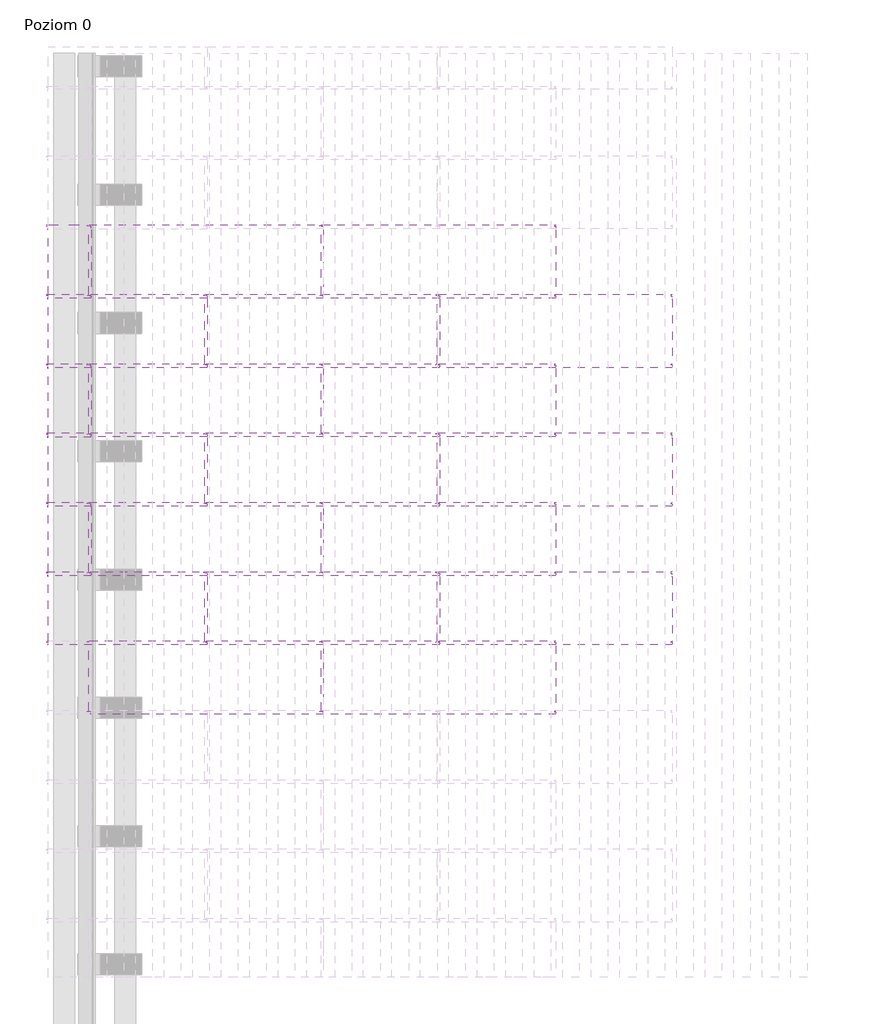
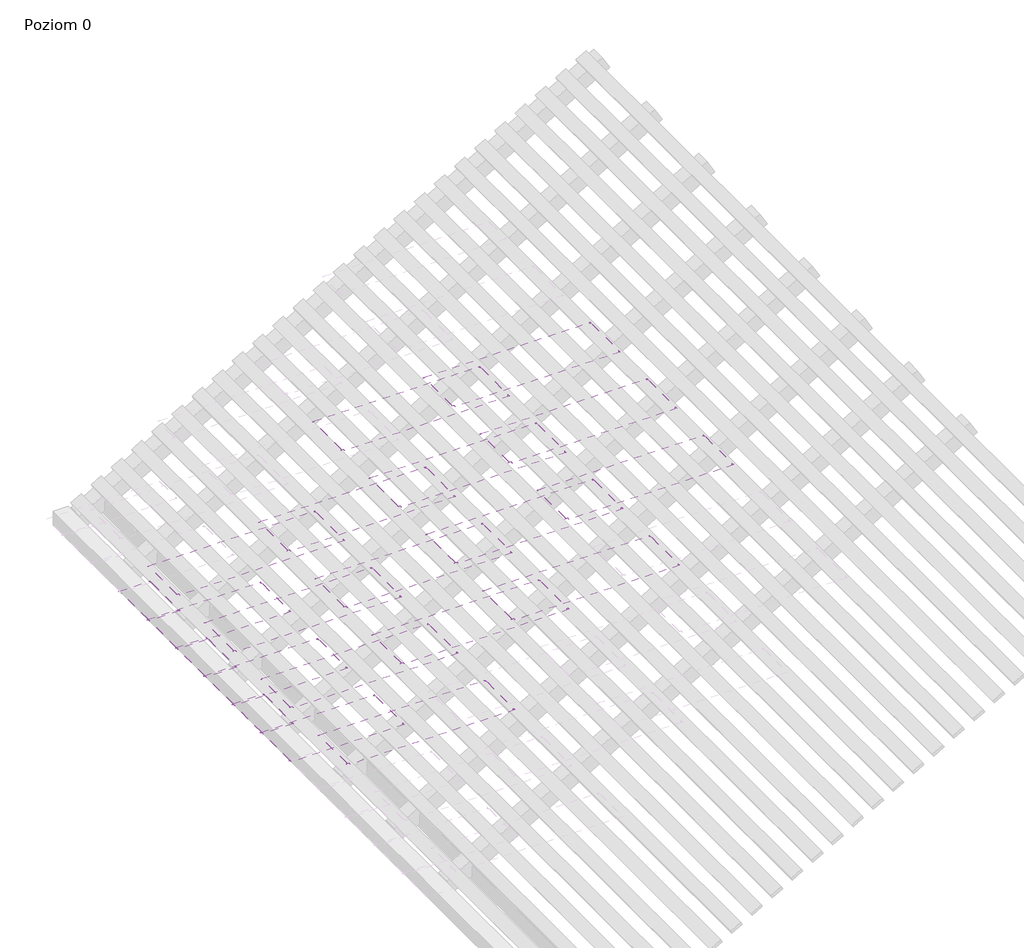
# One storey, part 3 of 4: 20 coverings.
"""IFC4 building model written with IfcOpenShell, lengths in millimetres."""

from ifc_helpers import new_model, si_unit, point, frame, frame_2d, origin, place, context, project, spatial, polyline, circle_curve, trimmed, segment, composite_curve, outline, extrude, transform, mapped, element, save
from components import covering_053faf2b

model = new_model("IFC4")

# Units and contexts
model_context = context("Model", 3, world=origin())
ifc_project = project(units=[si_unit("LENGTHUNIT", "METRE", prefix="MILLI")], contexts=[model_context])

# Site, building, storey
site = spatial("IfcSite", under=ifc_project)
building = spatial("IfcBuilding", under=site)
storey = spatial("IfcBuildingStorey", under=building, Name="Poziom 0", Elevation=0.0)

# Coverings
placement = place(None, origin())
element("IfcCovering", 1, ObjectType="Zintegrowany dach fotowoltaiczny FIT L.P (pojedynczy arkusz) : Zintegrowany dach fotowoltaiczny FIT L.P (pojedynczy arkusz)", at=placement, inside=storey, context=model_context, shape_type="SweptSolid", body=[
    extrude(outline(composite_curve([segment(polyline([(288.0882052, -764.3254516), (270.8006701, -764.3254516)]), True, "CONTINUOUS"), segment(trimmed(circle_curve(frame_2d((270.8006701, -767.1254516)), 2.8), [point((270.8006701, -764.3254516))], [point((268.0006701, -767.1254516))], True, "CARTESIAN"), True, "CONTINUOUS"), segment(polyline([(268.0006701, -767.1254516), (268.0006701, -784.9194843)]), True, "CONTINUOUS"), segment(trimmed(circle_curve(frame_2d((266.3873432, -784.7092324)), 1.6269694), [point((268.0006701, -784.9194843))], [point((264.9716419, -785.5109926))], False, "CARTESIAN"), True, "CONTINUOUS"), segment(polyline([(264.9716419, -785.5109926), (259.5147607, -772.9478756)]), True, "CONTINUOUS"), segment(trimmed(circle_curve(frame_2d((261.4782052, -771.7500084)), 2.3), [point((259.5147607, -772.9478756))], [point((260.424286, -769.705686))], False, "CARTESIAN"), True, "CONTINUOUS"), segment(polyline([(260.424286, -769.705686), (262.0969852, -769.0301624)]), True, "CONTINUOUS"), segment(trimmed(circle_curve(frame_2d((261.7598094, -768.195264)), 0.9004126), [point((262.0969852, -769.0301624))], [point((262.5492444, -767.7622108))], True, "CARTESIAN"), True, "CONTINUOUS"), segment(polyline([(262.5492444, -767.7622108), (260.6639723, -764.3254516), (-231.6728378, -764.3254516), (-233.6728378, -766.3254516), (-256.2638552, -766.3254516)]), True, "CONTINUOUS"), segment(trimmed(circle_curve(frame_2d((-256.2638552, -767.1498016)), 0.82435), [point((-256.2638552, -766.3254516))], [point((-257.0882052, -767.1498016))], True, "CARTESIAN"), True, "CONTINUOUS"), segment(polyline([(-257.0882052, -767.1498016), (-257.0882052, -785.8254516)]), True, "CONTINUOUS"), segment(trimmed(circle_curve(frame_2d((-259.0882052, -785.8254516)), 2.0), [point((-257.0882052, -785.8254516))], [point((-259.0882052, -787.8254516))], False, "CARTESIAN"), True, "CONTINUOUS"), segment(polyline([(-259.0882052, -787.8254516), (-267.9117948, -787.8254516)]), True, "CONTINUOUS"), segment(trimmed(circle_curve(frame_2d((-267.9117948, -785.8254516)), 2.0), [point((-267.9117948, -787.8254516))], [point((-269.9117948, -785.8254516))], False, "CARTESIAN"), True, "CONTINUOUS"), segment(polyline([(-269.9117948, -785.8254516), (-269.9117948, -771.7500084)]), True, "CONTINUOUS"), segment(trimmed(circle_curve(frame_2d((-266.1117948, -771.7500084)), 3.8), [point((-269.9117948, -771.7500084))], [point((-267.8014079, -768.3463036))], False, "CARTESIAN"), True, "CONTINUOUS"), segment(trimmed(circle_curve(frame_2d((-268.3170787, -767.3074911)), 1.1597619), [point((-267.8014079, -768.3463036))], [point((-267.171889, -767.1242207))], True, "CARTESIAN"), True, "CONTINUOUS"), segment(polyline([(-267.171889, -767.1242207), (-268.0083048, -765.5994754), (-267.1315567, -765.1185255), (-266.299575, -766.6351876)]), True, "CONTINUOUS"), segment(trimmed(circle_curve(frame_2d((-267.8170787, -767.3074911)), 1.6597619), [point((-266.299575, -766.6351876))], [point((-267.0790904, -768.7941595))], False, "CARTESIAN"), True, "CONTINUOUS"), segment(trimmed(circle_curve(frame_2d((-265.6117948, -771.7500084)), 3.3), [point((-267.0790904, -768.7941595))], [point((-268.9117948, -771.7500084))], True, "CARTESIAN"), True, "CONTINUOUS"), segment(polyline([(-268.9117948, -771.7500084), (-268.9117948, -785.3254516)]), True, "CONTINUOUS"), segment(trimmed(circle_curve(frame_2d((-267.4117948, -785.3254516)), 1.5), [point((-268.9117948, -785.3254516))], [point((-267.4117948, -786.8254516))], True, "CARTESIAN"), True, "CONTINUOUS"), segment(polyline([(-267.4117948, -786.8254516), (-259.5882052, -786.8254516)]), True, "CONTINUOUS"), segment(trimmed(circle_curve(frame_2d((-259.5882052, -785.3254516)), 1.5), [point((-259.5882052, -786.8254516))], [point((-258.0882052, -785.3254516))], True, "CARTESIAN"), True, "CONTINUOUS"), segment(polyline([(-258.0882052, -785.3254516), (-258.0882052, -767.0618312)]), True, "CONTINUOUS"), segment(trimmed(circle_curve(frame_2d((-256.2893299, -767.1254516)), 1.8), [point((-258.0882052, -767.0618312))], [point((-256.2893299, -765.3254516))], False, "CARTESIAN"), True, "CONTINUOUS"), segment(polyline([(-256.2893299, -765.3254516), (-234.0870514, -765.3254516), (-232.0870514, -763.3254516), (260.3034181, -763.3254516)]), True, "CONTINUOUS"), segment(trimmed(circle_curve(frame_2d((260.0800912, -765.3129437)), 2.0), [point((260.3034181, -763.3254516))], [point((261.7119395, -764.1566258))], False, "CARTESIAN"), True, "CONTINUOUS"), segment(polyline([(261.7119395, -764.1566258), (263.6966367, -767.774632)]), True, "CONTINUOUS"), segment(trimmed(circle_curve(frame_2d((262.4688276, -768.4481602)), 1.4004126), [point((263.6966367, -767.774632))], [point((262.9932374, -769.7466784))], False, "CARTESIAN"), True, "CONTINUOUS"), segment(polyline([(262.9932374, -769.7466784), (260.8475944, -770.6132015)]), True, "CONTINUOUS"), segment(trimmed(circle_curve(frame_2d((261.4782052, -771.7500084)), 1.3), [point((260.8475944, -770.6132015))], [point((260.4005072, -772.4770346))], True, "CARTESIAN"), True, "CONTINUOUS"), segment(polyline([(260.4005072, -772.4770346), (265.8628688, -785.0527688)]), True, "CONTINUOUS"), segment(trimmed(circle_curve(frame_2d((266.3873432, -784.7092324)), 0.6269694), [point((265.8628688, -785.0527688))], [point((267.0006701, -784.8393124))], True, "CARTESIAN"), True, "CONTINUOUS"), segment(polyline([(267.0006701, -784.8393124), (267.0006701, -767.1254516)]), True, "CONTINUOUS"), segment(trimmed(circle_curve(frame_2d((270.8006701, -767.1254516)), 3.8), [point((267.0006701, -767.1254516))], [point((270.8006701, -763.3254516))], False, "CARTESIAN"), True, "CONTINUOUS"), segment(polyline([(270.8006701, -763.3254516), (288.0882052, -763.3254516), (288.0882052, -764.3254516)]), True, "CONTINUOUS")], self_intersect=False)), frame((-4646.3009837, -2860.7095918, 351.3905312), z_axis=(0.8660254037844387, 0.0, 0.49999999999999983), x_axis=(0.0, -1.0, 0.0)), (0.0, 0.0, 1.0), 1396.4773133),
])
element("IfcCovering", 2, ObjectType="Zintegrowany dach fotowoltaiczny FIT L.P (pojedynczy arkusz) : Zintegrowany dach fotowoltaiczny FIT L.P (pojedynczy arkusz)", at=placement, inside=storey, context=model_context, shape_type="SweptSolid", body=[
    extrude(outline(composite_curve([segment(polyline([(288.0882052, -234.3179044), (270.8006701, -234.3179044)]), True, "CONTINUOUS"), segment(trimmed(circle_curve(frame_2d((270.8006701, -237.1179045)), 2.8), [point((270.8006701, -234.3179044))], [point((268.0006701, -237.1179045))], True, "CARTESIAN"), True, "CONTINUOUS"), segment(polyline([(268.0006701, -237.1179045), (268.0006701, -254.9119372)]), True, "CONTINUOUS"), segment(trimmed(circle_curve(frame_2d((266.3873432, -254.7016853)), 1.6269694), [point((268.0006701, -254.9119372))], [point((264.9716419, -255.5034454))], False, "CARTESIAN"), True, "CONTINUOUS"), segment(polyline([(264.9716419, -255.5034454), (259.5147607, -242.9403285)]), True, "CONTINUOUS"), segment(trimmed(circle_curve(frame_2d((261.4782052, -241.7424613)), 2.3), [point((259.5147607, -242.9403285))], [point((260.424286, -239.6981389))], False, "CARTESIAN"), True, "CONTINUOUS"), segment(polyline([(260.424286, -239.6981389), (262.0969852, -239.0226153)]), True, "CONTINUOUS"), segment(trimmed(circle_curve(frame_2d((261.7598094, -238.1877169)), 0.9004126), [point((262.0969852, -239.0226153))], [point((262.5492444, -237.7546636))], True, "CARTESIAN"), True, "CONTINUOUS"), segment(polyline([(262.5492444, -237.7546636), (260.6639723, -234.3179044), (-231.6728378, -234.3179044), (-233.6728378, -236.3179044), (-256.2638552, -236.3179044)]), True, "CONTINUOUS"), segment(trimmed(circle_curve(frame_2d((-256.2638552, -237.1422545)), 0.82435), [point((-256.2638552, -236.3179044))], [point((-257.0882052, -237.1422545))], True, "CARTESIAN"), True, "CONTINUOUS"), segment(polyline([(-257.0882052, -237.1422545), (-257.0882052, -255.8179044)]), True, "CONTINUOUS"), segment(trimmed(circle_curve(frame_2d((-259.0882052, -255.8179044)), 2.0), [point((-257.0882052, -255.8179044))], [point((-259.0882052, -257.8179044))], False, "CARTESIAN"), True, "CONTINUOUS"), segment(polyline([(-259.0882052, -257.8179044), (-267.9117948, -257.8179044)]), True, "CONTINUOUS"), segment(trimmed(circle_curve(frame_2d((-267.9117948, -255.8179044)), 2.0), [point((-267.9117948, -257.8179044))], [point((-269.9117948, -255.8179044))], False, "CARTESIAN"), True, "CONTINUOUS"), segment(polyline([(-269.9117948, -255.8179044), (-269.9117948, -241.7424613)]), True, "CONTINUOUS"), segment(trimmed(circle_curve(frame_2d((-266.1117948, -241.7424613)), 3.8), [point((-269.9117948, -241.7424613))], [point((-267.8014079, -238.3387564))], False, "CARTESIAN"), True, "CONTINUOUS"), segment(trimmed(circle_curve(frame_2d((-268.3170787, -237.2999439)), 1.1597619), [point((-267.8014079, -238.3387564))], [point((-267.171889, -237.1166736))], True, "CARTESIAN"), True, "CONTINUOUS"), segment(polyline([(-267.171889, -237.1166736), (-268.0083048, -235.5919282), (-267.1315567, -235.1109783), (-266.299575, -236.6276405)]), True, "CONTINUOUS"), segment(trimmed(circle_curve(frame_2d((-267.8170787, -237.2999439)), 1.6597619), [point((-266.299575, -236.6276405))], [point((-267.0790904, -238.7866123))], False, "CARTESIAN"), True, "CONTINUOUS"), segment(trimmed(circle_curve(frame_2d((-265.6117948, -241.7424613)), 3.3), [point((-267.0790904, -238.7866123))], [point((-268.9117948, -241.7424613))], True, "CARTESIAN"), True, "CONTINUOUS"), segment(polyline([(-268.9117948, -241.7424613), (-268.9117948, -255.3179044)]), True, "CONTINUOUS"), segment(trimmed(circle_curve(frame_2d((-267.4117948, -255.3179044)), 1.5), [point((-268.9117948, -255.3179044))], [point((-267.4117948, -256.8179044))], True, "CARTESIAN"), True, "CONTINUOUS"), segment(polyline([(-267.4117948, -256.8179044), (-259.5882052, -256.8179044)]), True, "CONTINUOUS"), segment(trimmed(circle_curve(frame_2d((-259.5882052, -255.3179044)), 1.5), [point((-259.5882052, -256.8179044))], [point((-258.0882052, -255.3179044))], True, "CARTESIAN"), True, "CONTINUOUS"), segment(polyline([(-258.0882052, -255.3179044), (-258.0882052, -237.0542841)]), True, "CONTINUOUS"), segment(trimmed(circle_curve(frame_2d((-256.2893299, -237.1179045)), 1.8), [point((-258.0882052, -237.0542841))], [point((-256.2893299, -235.3179044))], False, "CARTESIAN"), True, "CONTINUOUS"), segment(polyline([(-256.2893299, -235.3179044), (-234.0870514, -235.3179044), (-232.0870514, -233.3179044), (260.3034181, -233.3179044)]), True, "CONTINUOUS"), segment(trimmed(circle_curve(frame_2d((260.0800912, -235.3053966)), 2.0), [point((260.3034181, -233.3179044))], [point((261.7119395, -234.1490787))], False, "CARTESIAN"), True, "CONTINUOUS"), segment(polyline([(261.7119395, -234.1490787), (263.6966367, -237.7670849)]), True, "CONTINUOUS"), segment(trimmed(circle_curve(frame_2d((262.4688276, -238.440613)), 1.4004126), [point((263.6966367, -237.7670849))], [point((262.9932374, -239.7391313))], False, "CARTESIAN"), True, "CONTINUOUS"), segment(polyline([(262.9932374, -239.7391313), (260.8475944, -240.6056544)]), True, "CONTINUOUS"), segment(trimmed(circle_curve(frame_2d((261.4782052, -241.7424613)), 1.3), [point((260.8475944, -240.6056544))], [point((260.4005072, -242.4694875))], True, "CARTESIAN"), True, "CONTINUOUS"), segment(polyline([(260.4005072, -242.4694875), (265.8628688, -255.0452217)]), True, "CONTINUOUS"), segment(trimmed(circle_curve(frame_2d((266.3873432, -254.7016853)), 0.6269694), [point((265.8628688, -255.0452217))], [point((267.0006701, -254.8317652))], True, "CARTESIAN"), True, "CONTINUOUS"), segment(polyline([(267.0006701, -254.8317652), (267.0006701, -237.1179045)]), True, "CONTINUOUS"), segment(trimmed(circle_curve(frame_2d((270.8006701, -237.1179045)), 3.8), [point((267.0006701, -237.1179045))], [point((270.8006701, -233.3179044))], False, "CARTESIAN"), True, "CONTINUOUS"), segment(polyline([(270.8006701, -233.3179044), (288.0882052, -233.3179044), (288.0882052, -234.3179044)]), True, "CONTINUOUS")], self_intersect=False)), frame((-4911.3047573, -2333.7095918, 810.3905312), z_axis=(0.8660254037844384, 0.0, 0.5000000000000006), x_axis=(0.0, -1.0, 0.0)), (0.0, 0.0, 1.0), 376.4773133),
])
element("IfcCovering", 3, ObjectType="Zintegrowany dach fotowoltaiczny FIT L.P (pojedynczy arkusz) : Zintegrowany dach fotowoltaiczny FIT L.P (pojedynczy arkusz)", at=placement, inside=storey, context=model_context, shape_type="SweptSolid", body=[
    extrude(outline(composite_curve([segment(polyline([(288.0882052, -764.3254516), (270.8006701, -764.3254516)]), True, "CONTINUOUS"), segment(trimmed(circle_curve(frame_2d((270.8006701, -767.1254516)), 2.8), [point((270.8006701, -764.3254516))], [point((268.0006701, -767.1254516))], True, "CARTESIAN"), True, "CONTINUOUS"), segment(polyline([(268.0006701, -767.1254516), (268.0006701, -784.9194843)]), True, "CONTINUOUS"), segment(trimmed(circle_curve(frame_2d((266.3873432, -784.7092324)), 1.6269694), [point((268.0006701, -784.9194843))], [point((264.9716419, -785.5109926))], False, "CARTESIAN"), True, "CONTINUOUS"), segment(polyline([(264.9716419, -785.5109926), (259.5147607, -772.9478756)]), True, "CONTINUOUS"), segment(trimmed(circle_curve(frame_2d((261.4782052, -771.7500084)), 2.3), [point((259.5147607, -772.9478756))], [point((260.424286, -769.705686))], False, "CARTESIAN"), True, "CONTINUOUS"), segment(polyline([(260.424286, -769.705686), (262.0969852, -769.0301624)]), True, "CONTINUOUS"), segment(trimmed(circle_curve(frame_2d((261.7598094, -768.195264)), 0.9004126), [point((262.0969852, -769.0301624))], [point((262.5492444, -767.7622108))], True, "CARTESIAN"), True, "CONTINUOUS"), segment(polyline([(262.5492444, -767.7622108), (260.6639723, -764.3254516), (-231.6728378, -764.3254516), (-233.6728378, -766.3254516), (-256.2638552, -766.3254516)]), True, "CONTINUOUS"), segment(trimmed(circle_curve(frame_2d((-256.2638552, -767.1498016)), 0.82435), [point((-256.2638552, -766.3254516))], [point((-257.0882052, -767.1498016))], True, "CARTESIAN"), True, "CONTINUOUS"), segment(polyline([(-257.0882052, -767.1498016), (-257.0882052, -785.8254516)]), True, "CONTINUOUS"), segment(trimmed(circle_curve(frame_2d((-259.0882052, -785.8254516)), 2.0), [point((-257.0882052, -785.8254516))], [point((-259.0882052, -787.8254516))], False, "CARTESIAN"), True, "CONTINUOUS"), segment(polyline([(-259.0882052, -787.8254516), (-267.9117948, -787.8254516)]), True, "CONTINUOUS"), segment(trimmed(circle_curve(frame_2d((-267.9117948, -785.8254516)), 2.0), [point((-267.9117948, -787.8254516))], [point((-269.9117948, -785.8254516))], False, "CARTESIAN"), True, "CONTINUOUS"), segment(polyline([(-269.9117948, -785.8254516), (-269.9117948, -771.7500084)]), True, "CONTINUOUS"), segment(trimmed(circle_curve(frame_2d((-266.1117948, -771.7500084)), 3.8), [point((-269.9117948, -771.7500084))], [point((-267.8014079, -768.3463036))], False, "CARTESIAN"), True, "CONTINUOUS"), segment(trimmed(circle_curve(frame_2d((-268.3170787, -767.3074911)), 1.1597619), [point((-267.8014079, -768.3463036))], [point((-267.171889, -767.1242207))], True, "CARTESIAN"), True, "CONTINUOUS"), segment(polyline([(-267.171889, -767.1242207), (-268.0083048, -765.5994754), (-267.1315567, -765.1185255), (-266.299575, -766.6351876)]), True, "CONTINUOUS"), segment(trimmed(circle_curve(frame_2d((-267.8170787, -767.3074911)), 1.6597619), [point((-266.299575, -766.6351876))], [point((-267.0790904, -768.7941595))], False, "CARTESIAN"), True, "CONTINUOUS"), segment(trimmed(circle_curve(frame_2d((-265.6117948, -771.7500084)), 3.3), [point((-267.0790904, -768.7941595))], [point((-268.9117948, -771.7500084))], True, "CARTESIAN"), True, "CONTINUOUS"), segment(polyline([(-268.9117948, -771.7500084), (-268.9117948, -785.3254516)]), True, "CONTINUOUS"), segment(trimmed(circle_curve(frame_2d((-267.4117948, -785.3254516)), 1.5), [point((-268.9117948, -785.3254516))], [point((-267.4117948, -786.8254516))], True, "CARTESIAN"), True, "CONTINUOUS"), segment(polyline([(-267.4117948, -786.8254516), (-259.5882052, -786.8254516)]), True, "CONTINUOUS"), segment(trimmed(circle_curve(frame_2d((-259.5882052, -785.3254516)), 1.5), [point((-259.5882052, -786.8254516))], [point((-258.0882052, -785.3254516))], True, "CARTESIAN"), True, "CONTINUOUS"), segment(polyline([(-258.0882052, -785.3254516), (-258.0882052, -767.0618312)]), True, "CONTINUOUS"), segment(trimmed(circle_curve(frame_2d((-256.2893299, -767.1254516)), 1.8), [point((-258.0882052, -767.0618312))], [point((-256.2893299, -765.3254516))], False, "CARTESIAN"), True, "CONTINUOUS"), segment(polyline([(-256.2893299, -765.3254516), (-234.0870514, -765.3254516), (-232.0870514, -763.3254516), (260.3034181, -763.3254516)]), True, "CONTINUOUS"), segment(trimmed(circle_curve(frame_2d((260.0800912, -765.3129437)), 2.0), [point((260.3034181, -763.3254516))], [point((261.7119395, -764.1566258))], False, "CARTESIAN"), True, "CONTINUOUS"), segment(polyline([(261.7119395, -764.1566258), (263.6966367, -767.774632)]), True, "CONTINUOUS"), segment(trimmed(circle_curve(frame_2d((262.4688276, -768.4481602)), 1.4004126), [point((263.6966367, -767.774632))], [point((262.9932374, -769.7466784))], False, "CARTESIAN"), True, "CONTINUOUS"), segment(polyline([(262.9932374, -769.7466784), (260.8475944, -770.6132015)]), True, "CONTINUOUS"), segment(trimmed(circle_curve(frame_2d((261.4782052, -771.7500084)), 1.3), [point((260.8475944, -770.6132015))], [point((260.4005072, -772.4770346))], True, "CARTESIAN"), True, "CONTINUOUS"), segment(polyline([(260.4005072, -772.4770346), (265.8628688, -785.0527688)]), True, "CONTINUOUS"), segment(trimmed(circle_curve(frame_2d((266.3873432, -784.7092324)), 0.6269694), [point((265.8628688, -785.0527688))], [point((267.0006701, -784.8393124))], True, "CARTESIAN"), True, "CONTINUOUS"), segment(polyline([(267.0006701, -784.8393124), (267.0006701, -767.1254516)]), True, "CONTINUOUS"), segment(trimmed(circle_curve(frame_2d((270.8006701, -767.1254516)), 3.8), [point((267.0006701, -767.1254516))], [point((270.8006701, -763.3254516))], False, "CARTESIAN"), True, "CONTINUOUS"), segment(polyline([(270.8006701, -763.3254516), (288.0882052, -763.3254516), (288.0882052, -764.3254516)]), True, "CONTINUOUS")], self_intersect=False)), frame((-4646.3009837, -1806.7095918, 351.3905312), z_axis=(0.8660254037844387, 0.0, 0.49999999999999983), x_axis=(0.0, -1.0, 0.0)), (0.0, 0.0, 1.0), 1396.4773133),
])
element("IfcCovering", 4, ObjectType="Zintegrowany dach fotowoltaiczny FIT L.P (pojedynczy arkusz) : Zintegrowany dach fotowoltaiczny FIT L.P (pojedynczy arkusz)", at=placement, inside=storey, context=model_context, shape_type="SweptSolid", body=[
    extrude(outline(composite_curve([segment(polyline([(288.0882052, -234.3179044), (270.8006701, -234.3179044)]), True, "CONTINUOUS"), segment(trimmed(circle_curve(frame_2d((270.8006701, -237.1179045)), 2.8), [point((270.8006701, -234.3179044))], [point((268.0006701, -237.1179045))], True, "CARTESIAN"), True, "CONTINUOUS"), segment(polyline([(268.0006701, -237.1179045), (268.0006701, -254.9119372)]), True, "CONTINUOUS"), segment(trimmed(circle_curve(frame_2d((266.3873432, -254.7016853)), 1.6269694), [point((268.0006701, -254.9119372))], [point((264.9716419, -255.5034454))], False, "CARTESIAN"), True, "CONTINUOUS"), segment(polyline([(264.9716419, -255.5034454), (259.5147607, -242.9403285)]), True, "CONTINUOUS"), segment(trimmed(circle_curve(frame_2d((261.4782052, -241.7424613)), 2.3), [point((259.5147607, -242.9403285))], [point((260.424286, -239.6981389))], False, "CARTESIAN"), True, "CONTINUOUS"), segment(polyline([(260.424286, -239.6981389), (262.0969852, -239.0226153)]), True, "CONTINUOUS"), segment(trimmed(circle_curve(frame_2d((261.7598094, -238.1877169)), 0.9004126), [point((262.0969852, -239.0226153))], [point((262.5492444, -237.7546636))], True, "CARTESIAN"), True, "CONTINUOUS"), segment(polyline([(262.5492444, -237.7546636), (260.6639723, -234.3179044), (-231.6728378, -234.3179044), (-233.6728378, -236.3179044), (-256.2638552, -236.3179044)]), True, "CONTINUOUS"), segment(trimmed(circle_curve(frame_2d((-256.2638552, -237.1422545)), 0.82435), [point((-256.2638552, -236.3179044))], [point((-257.0882052, -237.1422545))], True, "CARTESIAN"), True, "CONTINUOUS"), segment(polyline([(-257.0882052, -237.1422545), (-257.0882052, -255.8179044)]), True, "CONTINUOUS"), segment(trimmed(circle_curve(frame_2d((-259.0882052, -255.8179044)), 2.0), [point((-257.0882052, -255.8179044))], [point((-259.0882052, -257.8179044))], False, "CARTESIAN"), True, "CONTINUOUS"), segment(polyline([(-259.0882052, -257.8179044), (-267.9117948, -257.8179044)]), True, "CONTINUOUS"), segment(trimmed(circle_curve(frame_2d((-267.9117948, -255.8179044)), 2.0), [point((-267.9117948, -257.8179044))], [point((-269.9117948, -255.8179044))], False, "CARTESIAN"), True, "CONTINUOUS"), segment(polyline([(-269.9117948, -255.8179044), (-269.9117948, -241.7424613)]), True, "CONTINUOUS"), segment(trimmed(circle_curve(frame_2d((-266.1117948, -241.7424613)), 3.8), [point((-269.9117948, -241.7424613))], [point((-267.8014079, -238.3387564))], False, "CARTESIAN"), True, "CONTINUOUS"), segment(trimmed(circle_curve(frame_2d((-268.3170787, -237.2999439)), 1.1597619), [point((-267.8014079, -238.3387564))], [point((-267.171889, -237.1166736))], True, "CARTESIAN"), True, "CONTINUOUS"), segment(polyline([(-267.171889, -237.1166736), (-268.0083048, -235.5919282), (-267.1315567, -235.1109783), (-266.299575, -236.6276405)]), True, "CONTINUOUS"), segment(trimmed(circle_curve(frame_2d((-267.8170787, -237.2999439)), 1.6597619), [point((-266.299575, -236.6276405))], [point((-267.0790904, -238.7866123))], False, "CARTESIAN"), True, "CONTINUOUS"), segment(trimmed(circle_curve(frame_2d((-265.6117948, -241.7424613)), 3.3), [point((-267.0790904, -238.7866123))], [point((-268.9117948, -241.7424613))], True, "CARTESIAN"), True, "CONTINUOUS"), segment(polyline([(-268.9117948, -241.7424613), (-268.9117948, -255.3179044)]), True, "CONTINUOUS"), segment(trimmed(circle_curve(frame_2d((-267.4117948, -255.3179044)), 1.5), [point((-268.9117948, -255.3179044))], [point((-267.4117948, -256.8179044))], True, "CARTESIAN"), True, "CONTINUOUS"), segment(polyline([(-267.4117948, -256.8179044), (-259.5882052, -256.8179044)]), True, "CONTINUOUS"), segment(trimmed(circle_curve(frame_2d((-259.5882052, -255.3179044)), 1.5), [point((-259.5882052, -256.8179044))], [point((-258.0882052, -255.3179044))], True, "CARTESIAN"), True, "CONTINUOUS"), segment(polyline([(-258.0882052, -255.3179044), (-258.0882052, -237.0542841)]), True, "CONTINUOUS"), segment(trimmed(circle_curve(frame_2d((-256.2893299, -237.1179045)), 1.8), [point((-258.0882052, -237.0542841))], [point((-256.2893299, -235.3179044))], False, "CARTESIAN"), True, "CONTINUOUS"), segment(polyline([(-256.2893299, -235.3179044), (-234.0870514, -235.3179044), (-232.0870514, -233.3179044), (260.3034181, -233.3179044)]), True, "CONTINUOUS"), segment(trimmed(circle_curve(frame_2d((260.0800912, -235.3053966)), 2.0), [point((260.3034181, -233.3179044))], [point((261.7119395, -234.1490787))], False, "CARTESIAN"), True, "CONTINUOUS"), segment(polyline([(261.7119395, -234.1490787), (263.6966367, -237.7670849)]), True, "CONTINUOUS"), segment(trimmed(circle_curve(frame_2d((262.4688276, -238.440613)), 1.4004126), [point((263.6966367, -237.7670849))], [point((262.9932374, -239.7391313))], False, "CARTESIAN"), True, "CONTINUOUS"), segment(polyline([(262.9932374, -239.7391313), (260.8475944, -240.6056544)]), True, "CONTINUOUS"), segment(trimmed(circle_curve(frame_2d((261.4782052, -241.7424613)), 1.3), [point((260.8475944, -240.6056544))], [point((260.4005072, -242.4694875))], True, "CARTESIAN"), True, "CONTINUOUS"), segment(polyline([(260.4005072, -242.4694875), (265.8628688, -255.0452217)]), True, "CONTINUOUS"), segment(trimmed(circle_curve(frame_2d((266.3873432, -254.7016853)), 0.6269694), [point((265.8628688, -255.0452217))], [point((267.0006701, -254.8317652))], True, "CARTESIAN"), True, "CONTINUOUS"), segment(polyline([(267.0006701, -254.8317652), (267.0006701, -237.1179045)]), True, "CONTINUOUS"), segment(trimmed(circle_curve(frame_2d((270.8006701, -237.1179045)), 3.8), [point((267.0006701, -237.1179045))], [point((270.8006701, -233.3179044))], False, "CARTESIAN"), True, "CONTINUOUS"), segment(polyline([(270.8006701, -233.3179044), (288.0882052, -233.3179044), (288.0882052, -234.3179044)]), True, "CONTINUOUS")], self_intersect=False)), frame((-4911.3047573, -1279.7095918, 810.3905312), z_axis=(0.8660254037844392, 0.0, 0.4999999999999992), x_axis=(0.0, -1.0, 0.0)), (0.0, 0.0, 1.0), 376.4773133),
])
element("IfcCovering", 5, ObjectType="Zintegrowany dach fotowoltaiczny FIT L.P (pojedynczy arkusz) : Zintegrowany dach fotowoltaiczny FIT L.P (pojedynczy arkusz)", at=placement, inside=storey, context=model_context, shape_type="SweptSolid", body=[
    extrude(outline(composite_curve([segment(polyline([(288.0882052, -764.3254516), (270.8006701, -764.3254516)]), True, "CONTINUOUS"), segment(trimmed(circle_curve(frame_2d((270.8006701, -767.1254516)), 2.8), [point((270.8006701, -764.3254516))], [point((268.0006701, -767.1254516))], True, "CARTESIAN"), True, "CONTINUOUS"), segment(polyline([(268.0006701, -767.1254516), (268.0006701, -784.9194843)]), True, "CONTINUOUS"), segment(trimmed(circle_curve(frame_2d((266.3873432, -784.7092324)), 1.6269694), [point((268.0006701, -784.9194843))], [point((264.9716419, -785.5109926))], False, "CARTESIAN"), True, "CONTINUOUS"), segment(polyline([(264.9716419, -785.5109926), (259.5147607, -772.9478756)]), True, "CONTINUOUS"), segment(trimmed(circle_curve(frame_2d((261.4782052, -771.7500084)), 2.3), [point((259.5147607, -772.9478756))], [point((260.424286, -769.705686))], False, "CARTESIAN"), True, "CONTINUOUS"), segment(polyline([(260.424286, -769.705686), (262.0969852, -769.0301624)]), True, "CONTINUOUS"), segment(trimmed(circle_curve(frame_2d((261.7598094, -768.195264)), 0.9004126), [point((262.0969852, -769.0301624))], [point((262.5492444, -767.7622108))], True, "CARTESIAN"), True, "CONTINUOUS"), segment(polyline([(262.5492444, -767.7622108), (260.6639723, -764.3254516), (-231.6728378, -764.3254516), (-233.6728378, -766.3254516), (-256.2638552, -766.3254516)]), True, "CONTINUOUS"), segment(trimmed(circle_curve(frame_2d((-256.2638552, -767.1498016)), 0.82435), [point((-256.2638552, -766.3254516))], [point((-257.0882052, -767.1498016))], True, "CARTESIAN"), True, "CONTINUOUS"), segment(polyline([(-257.0882052, -767.1498016), (-257.0882052, -785.8254516)]), True, "CONTINUOUS"), segment(trimmed(circle_curve(frame_2d((-259.0882052, -785.8254516)), 2.0), [point((-257.0882052, -785.8254516))], [point((-259.0882052, -787.8254516))], False, "CARTESIAN"), True, "CONTINUOUS"), segment(polyline([(-259.0882052, -787.8254516), (-267.9117948, -787.8254516)]), True, "CONTINUOUS"), segment(trimmed(circle_curve(frame_2d((-267.9117948, -785.8254516)), 2.0), [point((-267.9117948, -787.8254516))], [point((-269.9117948, -785.8254516))], False, "CARTESIAN"), True, "CONTINUOUS"), segment(polyline([(-269.9117948, -785.8254516), (-269.9117948, -771.7500084)]), True, "CONTINUOUS"), segment(trimmed(circle_curve(frame_2d((-266.1117948, -771.7500084)), 3.8), [point((-269.9117948, -771.7500084))], [point((-267.8014079, -768.3463036))], False, "CARTESIAN"), True, "CONTINUOUS"), segment(trimmed(circle_curve(frame_2d((-268.3170787, -767.3074911)), 1.1597619), [point((-267.8014079, -768.3463036))], [point((-267.171889, -767.1242207))], True, "CARTESIAN"), True, "CONTINUOUS"), segment(polyline([(-267.171889, -767.1242207), (-268.0083048, -765.5994754), (-267.1315567, -765.1185255), (-266.299575, -766.6351876)]), True, "CONTINUOUS"), segment(trimmed(circle_curve(frame_2d((-267.8170787, -767.3074911)), 1.6597619), [point((-266.299575, -766.6351876))], [point((-267.0790904, -768.7941595))], False, "CARTESIAN"), True, "CONTINUOUS"), segment(trimmed(circle_curve(frame_2d((-265.6117948, -771.7500084)), 3.3), [point((-267.0790904, -768.7941595))], [point((-268.9117948, -771.7500084))], True, "CARTESIAN"), True, "CONTINUOUS"), segment(polyline([(-268.9117948, -771.7500084), (-268.9117948, -785.3254516)]), True, "CONTINUOUS"), segment(trimmed(circle_curve(frame_2d((-267.4117948, -785.3254516)), 1.5), [point((-268.9117948, -785.3254516))], [point((-267.4117948, -786.8254516))], True, "CARTESIAN"), True, "CONTINUOUS"), segment(polyline([(-267.4117948, -786.8254516), (-259.5882052, -786.8254516)]), True, "CONTINUOUS"), segment(trimmed(circle_curve(frame_2d((-259.5882052, -785.3254516)), 1.5), [point((-259.5882052, -786.8254516))], [point((-258.0882052, -785.3254516))], True, "CARTESIAN"), True, "CONTINUOUS"), segment(polyline([(-258.0882052, -785.3254516), (-258.0882052, -767.0618312)]), True, "CONTINUOUS"), segment(trimmed(circle_curve(frame_2d((-256.2893299, -767.1254516)), 1.8), [point((-258.0882052, -767.0618312))], [point((-256.2893299, -765.3254516))], False, "CARTESIAN"), True, "CONTINUOUS"), segment(polyline([(-256.2893299, -765.3254516), (-234.0870514, -765.3254516), (-232.0870514, -763.3254516), (260.3034181, -763.3254516)]), True, "CONTINUOUS"), segment(trimmed(circle_curve(frame_2d((260.0800912, -765.3129437)), 2.0), [point((260.3034181, -763.3254516))], [point((261.7119395, -764.1566258))], False, "CARTESIAN"), True, "CONTINUOUS"), segment(polyline([(261.7119395, -764.1566258), (263.6966367, -767.774632)]), True, "CONTINUOUS"), segment(trimmed(circle_curve(frame_2d((262.4688276, -768.4481602)), 1.4004126), [point((263.6966367, -767.774632))], [point((262.9932374, -769.7466784))], False, "CARTESIAN"), True, "CONTINUOUS"), segment(polyline([(262.9932374, -769.7466784), (260.8475944, -770.6132015)]), True, "CONTINUOUS"), segment(trimmed(circle_curve(frame_2d((261.4782052, -771.7500084)), 1.3), [point((260.8475944, -770.6132015))], [point((260.4005072, -772.4770346))], True, "CARTESIAN"), True, "CONTINUOUS"), segment(polyline([(260.4005072, -772.4770346), (265.8628688, -785.0527688)]), True, "CONTINUOUS"), segment(trimmed(circle_curve(frame_2d((266.3873432, -784.7092324)), 0.6269694), [point((265.8628688, -785.0527688))], [point((267.0006701, -784.8393124))], True, "CARTESIAN"), True, "CONTINUOUS"), segment(polyline([(267.0006701, -784.8393124), (267.0006701, -767.1254516)]), True, "CONTINUOUS"), segment(trimmed(circle_curve(frame_2d((270.8006701, -767.1254516)), 3.8), [point((267.0006701, -767.1254516))], [point((270.8006701, -763.3254516))], False, "CARTESIAN"), True, "CONTINUOUS"), segment(polyline([(270.8006701, -763.3254516), (288.0882052, -763.3254516), (288.0882052, -764.3254516)]), True, "CONTINUOUS")], self_intersect=False)), frame((-4646.3009837, -752.7095918, 351.3905312), z_axis=(0.8660254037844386, 0.0, 0.5000000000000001), x_axis=(0.0, -1.0, 0.0)), (0.0, 0.0, 1.0), 1396.4773133),
])
element("IfcCovering", 6, ObjectType="Zintegrowany dach fotowoltaiczny FIT L.P (pojedynczy arkusz) : Zintegrowany dach fotowoltaiczny FIT L.P (pojedynczy arkusz)", at=placement, inside=storey, context=model_context, shape_type="SweptSolid", body=[
    extrude(outline(composite_curve([segment(polyline([(288.0882052, -234.3179044), (270.8006701, -234.3179044)]), True, "CONTINUOUS"), segment(trimmed(circle_curve(frame_2d((270.8006701, -237.1179045)), 2.8), [point((270.8006701, -234.3179044))], [point((268.0006701, -237.1179045))], True, "CARTESIAN"), True, "CONTINUOUS"), segment(polyline([(268.0006701, -237.1179045), (268.0006701, -254.9119372)]), True, "CONTINUOUS"), segment(trimmed(circle_curve(frame_2d((266.3873432, -254.7016853)), 1.6269694), [point((268.0006701, -254.9119372))], [point((264.9716419, -255.5034454))], False, "CARTESIAN"), True, "CONTINUOUS"), segment(polyline([(264.9716419, -255.5034454), (259.5147607, -242.9403285)]), True, "CONTINUOUS"), segment(trimmed(circle_curve(frame_2d((261.4782052, -241.7424613)), 2.3), [point((259.5147607, -242.9403285))], [point((260.424286, -239.6981389))], False, "CARTESIAN"), True, "CONTINUOUS"), segment(polyline([(260.424286, -239.6981389), (262.0969852, -239.0226153)]), True, "CONTINUOUS"), segment(trimmed(circle_curve(frame_2d((261.7598094, -238.1877169)), 0.9004126), [point((262.0969852, -239.0226153))], [point((262.5492444, -237.7546636))], True, "CARTESIAN"), True, "CONTINUOUS"), segment(polyline([(262.5492444, -237.7546636), (260.6639723, -234.3179044), (-231.6728378, -234.3179044), (-233.6728378, -236.3179044), (-256.2638552, -236.3179044)]), True, "CONTINUOUS"), segment(trimmed(circle_curve(frame_2d((-256.2638552, -237.1422545)), 0.82435), [point((-256.2638552, -236.3179044))], [point((-257.0882052, -237.1422545))], True, "CARTESIAN"), True, "CONTINUOUS"), segment(polyline([(-257.0882052, -237.1422545), (-257.0882052, -255.8179044)]), True, "CONTINUOUS"), segment(trimmed(circle_curve(frame_2d((-259.0882052, -255.8179044)), 2.0), [point((-257.0882052, -255.8179044))], [point((-259.0882052, -257.8179044))], False, "CARTESIAN"), True, "CONTINUOUS"), segment(polyline([(-259.0882052, -257.8179044), (-267.9117948, -257.8179044)]), True, "CONTINUOUS"), segment(trimmed(circle_curve(frame_2d((-267.9117948, -255.8179044)), 2.0), [point((-267.9117948, -257.8179044))], [point((-269.9117948, -255.8179044))], False, "CARTESIAN"), True, "CONTINUOUS"), segment(polyline([(-269.9117948, -255.8179044), (-269.9117948, -241.7424613)]), True, "CONTINUOUS"), segment(trimmed(circle_curve(frame_2d((-266.1117948, -241.7424613)), 3.8), [point((-269.9117948, -241.7424613))], [point((-267.8014079, -238.3387564))], False, "CARTESIAN"), True, "CONTINUOUS"), segment(trimmed(circle_curve(frame_2d((-268.3170787, -237.2999439)), 1.1597619), [point((-267.8014079, -238.3387564))], [point((-267.171889, -237.1166736))], True, "CARTESIAN"), True, "CONTINUOUS"), segment(polyline([(-267.171889, -237.1166736), (-268.0083048, -235.5919282), (-267.1315567, -235.1109783), (-266.299575, -236.6276405)]), True, "CONTINUOUS"), segment(trimmed(circle_curve(frame_2d((-267.8170787, -237.2999439)), 1.6597619), [point((-266.299575, -236.6276405))], [point((-267.0790904, -238.7866123))], False, "CARTESIAN"), True, "CONTINUOUS"), segment(trimmed(circle_curve(frame_2d((-265.6117948, -241.7424613)), 3.3), [point((-267.0790904, -238.7866123))], [point((-268.9117948, -241.7424613))], True, "CARTESIAN"), True, "CONTINUOUS"), segment(polyline([(-268.9117948, -241.7424613), (-268.9117948, -255.3179044)]), True, "CONTINUOUS"), segment(trimmed(circle_curve(frame_2d((-267.4117948, -255.3179044)), 1.5), [point((-268.9117948, -255.3179044))], [point((-267.4117948, -256.8179044))], True, "CARTESIAN"), True, "CONTINUOUS"), segment(polyline([(-267.4117948, -256.8179044), (-259.5882052, -256.8179044)]), True, "CONTINUOUS"), segment(trimmed(circle_curve(frame_2d((-259.5882052, -255.3179044)), 1.5), [point((-259.5882052, -256.8179044))], [point((-258.0882052, -255.3179044))], True, "CARTESIAN"), True, "CONTINUOUS"), segment(polyline([(-258.0882052, -255.3179044), (-258.0882052, -237.0542841)]), True, "CONTINUOUS"), segment(trimmed(circle_curve(frame_2d((-256.2893299, -237.1179045)), 1.8), [point((-258.0882052, -237.0542841))], [point((-256.2893299, -235.3179044))], False, "CARTESIAN"), True, "CONTINUOUS"), segment(polyline([(-256.2893299, -235.3179044), (-234.0870514, -235.3179044), (-232.0870514, -233.3179044), (260.3034181, -233.3179044)]), True, "CONTINUOUS"), segment(trimmed(circle_curve(frame_2d((260.0800912, -235.3053966)), 2.0), [point((260.3034181, -233.3179044))], [point((261.7119395, -234.1490787))], False, "CARTESIAN"), True, "CONTINUOUS"), segment(polyline([(261.7119395, -234.1490787), (263.6966367, -237.7670849)]), True, "CONTINUOUS"), segment(trimmed(circle_curve(frame_2d((262.4688276, -238.440613)), 1.4004126), [point((263.6966367, -237.7670849))], [point((262.9932374, -239.7391313))], False, "CARTESIAN"), True, "CONTINUOUS"), segment(polyline([(262.9932374, -239.7391313), (260.8475944, -240.6056544)]), True, "CONTINUOUS"), segment(trimmed(circle_curve(frame_2d((261.4782052, -241.7424613)), 1.3), [point((260.8475944, -240.6056544))], [point((260.4005072, -242.4694875))], True, "CARTESIAN"), True, "CONTINUOUS"), segment(polyline([(260.4005072, -242.4694875), (265.8628688, -255.0452217)]), True, "CONTINUOUS"), segment(trimmed(circle_curve(frame_2d((266.3873432, -254.7016853)), 0.6269694), [point((265.8628688, -255.0452217))], [point((267.0006701, -254.8317652))], True, "CARTESIAN"), True, "CONTINUOUS"), segment(polyline([(267.0006701, -254.8317652), (267.0006701, -237.1179045)]), True, "CONTINUOUS"), segment(trimmed(circle_curve(frame_2d((270.8006701, -237.1179045)), 3.8), [point((267.0006701, -237.1179045))], [point((270.8006701, -233.3179044))], False, "CARTESIAN"), True, "CONTINUOUS"), segment(polyline([(270.8006701, -233.3179044), (288.0882052, -233.3179044), (288.0882052, -234.3179044)]), True, "CONTINUOUS")], self_intersect=False)), frame((-4911.3047573, -225.7095918, 810.3905312), z_axis=(0.8660254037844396, 0.0, 0.4999999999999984), x_axis=(0.0, -1.0, 0.0)), (0.0, 0.0, 1.0), 376.4773133),
])
covering_shape = covering_053faf2b(model_context)
element("IfcCovering", 7, ObjectType="Zintegrowany dach fotowoltaiczny FIT VOLT (pojedynczy arkusz) : Zintegrowany dach fotowoltaiczny FIT VOLT (pojedynczy arkusz)", at=placement, inside=storey, context=model_context, shape_type="MappedRepresentation", body=[
    mapped(covering_shape, transform((-1579.9032116, -3651.2095918, 3003.1884203), x_axis=(0.8660254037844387, 0.0, 0.4999999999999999), y_axis=(0.0, 1.0000000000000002, 0.0), z_axis=(-0.4999999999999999, 0.0, 0.8660254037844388))),
])
element("IfcCovering", 8, ObjectType="Zintegrowany dach fotowoltaiczny FIT VOLT (pojedynczy arkusz) : Zintegrowany dach fotowoltaiczny FIT VOLT (pojedynczy arkusz)", at=placement, inside=storey, context=model_context, shape_type="MappedRepresentation", body=[
    mapped(covering_shape, transform((-696.5572997, -3124.2095918, 3513.1884203), x_axis=(0.8660254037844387, 0.0, 0.5), y_axis=(0.0, 1.0, 0.0), z_axis=(-0.5, 0.0, 0.8660254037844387))),
])
element("IfcCovering", 9, ObjectType="Zintegrowany dach fotowoltaiczny FIT VOLT (pojedynczy arkusz) : Zintegrowany dach fotowoltaiczny FIT VOLT (pojedynczy arkusz)", at=placement, inside=storey, context=model_context, shape_type="MappedRepresentation", body=[
    mapped(covering_shape, transform((-3346.5950353, -3651.2095918, 1983.1884203), x_axis=(0.8660254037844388, 0.0, 0.49999999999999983), y_axis=(0.0, 0.9999999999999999, 0.0), z_axis=(-0.4999999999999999, 0.0, 0.8660254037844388))),
])
element("IfcCovering", 10, ObjectType="Zintegrowany dach fotowoltaiczny FIT VOLT (pojedynczy arkusz) : Zintegrowany dach fotowoltaiczny FIT VOLT (pojedynczy arkusz)", at=placement, inside=storey, context=model_context, shape_type="MappedRepresentation", body=[
    mapped(covering_shape, transform((-2463.2491235, -3124.2095918, 2493.1884203), x_axis=(0.8660254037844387, 0.0, 0.4999999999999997), y_axis=(0.0, 1.0, 0.0), z_axis=(-0.4999999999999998, 0.0, 0.8660254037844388))),
])
element("IfcCovering", 11, ObjectType="Zintegrowany dach fotowoltaiczny FIT VOLT (pojedynczy arkusz) : Zintegrowany dach fotowoltaiczny FIT VOLT (pojedynczy arkusz)", at=placement, inside=storey, context=model_context, shape_type="MappedRepresentation", body=[
    mapped(covering_shape, transform((-3346.5950353, -2597.2095918, 1983.1884203), x_axis=(0.8660254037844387, 0.0, 0.49999999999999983), y_axis=(0.0, 1.0000000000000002, 0.0), z_axis=(-0.4999999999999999, 0.0, 0.8660254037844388))),
])
element("IfcCovering", 12, ObjectType="Zintegrowany dach fotowoltaiczny FIT VOLT (pojedynczy arkusz) : Zintegrowany dach fotowoltaiczny FIT VOLT (pojedynczy arkusz)", at=placement, inside=storey, context=model_context, shape_type="MappedRepresentation", body=[
    mapped(covering_shape, transform((-1579.9032116, -2597.2095918, 3003.1884203), x_axis=(0.8660254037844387, 0.0, 0.5), y_axis=(0.0, 1.0, 0.0), z_axis=(-0.49999999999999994, 0.0, 0.8660254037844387))),
])
element("IfcCovering", 13, ObjectType="Zintegrowany dach fotowoltaiczny FIT VOLT (pojedynczy arkusz) : Zintegrowany dach fotowoltaiczny FIT VOLT (pojedynczy arkusz)", at=placement, inside=storey, context=model_context, shape_type="MappedRepresentation", body=[
    mapped(covering_shape, transform((-2463.2491235, -2070.2095918, 2493.1884203), x_axis=(0.8660254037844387, 0.0, 0.4999999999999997), y_axis=(0.0, 1.0, 0.0), z_axis=(-0.49999999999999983, 0.0, 0.8660254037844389))),
])
element("IfcCovering", 14, ObjectType="Zintegrowany dach fotowoltaiczny FIT VOLT (pojedynczy arkusz) : Zintegrowany dach fotowoltaiczny FIT VOLT (pojedynczy arkusz)", at=placement, inside=storey, context=model_context, shape_type="MappedRepresentation", body=[
    mapped(covering_shape, transform((-696.5572997, -2070.2095918, 3513.1884203), x_axis=(0.8660254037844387, 0.0, 0.5), y_axis=(0.0, 1.0, 0.0), z_axis=(-0.5, 0.0, 0.8660254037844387))),
])
element("IfcCovering", 15, ObjectType="Zintegrowany dach fotowoltaiczny FIT VOLT (pojedynczy arkusz) : Zintegrowany dach fotowoltaiczny FIT VOLT (pojedynczy arkusz)", at=placement, inside=storey, context=model_context, shape_type="MappedRepresentation", body=[
    mapped(covering_shape, transform((-3346.5950353, -1543.2095918, 1983.1884203), x_axis=(0.8660254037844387, 0.0, 0.4999999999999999), y_axis=(0.0, 1.0, 0.0), z_axis=(-0.4999999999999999, 0.0, 0.8660254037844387))),
])
element("IfcCovering", 16, ObjectType="Zintegrowany dach fotowoltaiczny FIT VOLT (pojedynczy arkusz) : Zintegrowany dach fotowoltaiczny FIT VOLT (pojedynczy arkusz)", at=placement, inside=storey, context=model_context, shape_type="MappedRepresentation", body=[
    mapped(covering_shape, transform((-1579.9032116, -1543.2095918, 3003.1884203), x_axis=(0.8660254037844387, 0.0, 0.49999999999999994), y_axis=(0.0, 1.0, 0.0), z_axis=(-0.49999999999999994, 0.0, 0.8660254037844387))),
])
element("IfcCovering", 17, ObjectType="Zintegrowany dach fotowoltaiczny FIT VOLT (pojedynczy arkusz) : Zintegrowany dach fotowoltaiczny FIT VOLT (pojedynczy arkusz)", at=placement, inside=storey, context=model_context, shape_type="MappedRepresentation", body=[
    mapped(covering_shape, transform((-2463.2491235, -1016.2095918, 2493.1884203), x_axis=(0.8660254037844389, 0.0, 0.4999999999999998), y_axis=(0.0, 1.0, 0.0), z_axis=(-0.4999999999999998, 0.0, 0.8660254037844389))),
])
element("IfcCovering", 18, ObjectType="Zintegrowany dach fotowoltaiczny FIT VOLT (pojedynczy arkusz) : Zintegrowany dach fotowoltaiczny FIT VOLT (pojedynczy arkusz)", at=placement, inside=storey, context=model_context, shape_type="MappedRepresentation", body=[
    mapped(covering_shape, transform((-696.5572997, -1016.2095918, 3513.1884203), x_axis=(0.8660254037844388, 0.0, 0.49999999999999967), y_axis=(0.0, 1.0, 0.0), z_axis=(-0.49999999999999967, 0.0, 0.8660254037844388))),
])
element("IfcCovering", 19, ObjectType="Zintegrowany dach fotowoltaiczny FIT VOLT (pojedynczy arkusz) : Zintegrowany dach fotowoltaiczny FIT VOLT (pojedynczy arkusz)", at=placement, inside=storey, context=model_context, shape_type="MappedRepresentation", body=[
    mapped(covering_shape, transform((-3346.5950353, -489.2095918, 1983.1884203), x_axis=(0.8660254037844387, 0.0, 0.49999999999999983), y_axis=(0.0, 1.0, 0.0), z_axis=(-0.49999999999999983, 0.0, 0.8660254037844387))),
])
element("IfcCovering", 20, ObjectType="Zintegrowany dach fotowoltaiczny FIT VOLT (pojedynczy arkusz) : Zintegrowany dach fotowoltaiczny FIT VOLT (pojedynczy arkusz)", at=placement, inside=storey, context=model_context, shape_type="MappedRepresentation", body=[
    mapped(covering_shape, transform((-1579.9032116, -489.2095918, 3003.1884203), x_axis=(0.8660254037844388, 0.0, 0.4999999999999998), y_axis=(0.0, 1.0, 0.0), z_axis=(-0.49999999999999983, 0.0, 0.8660254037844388))),
])

save(model, "model.ifc")
